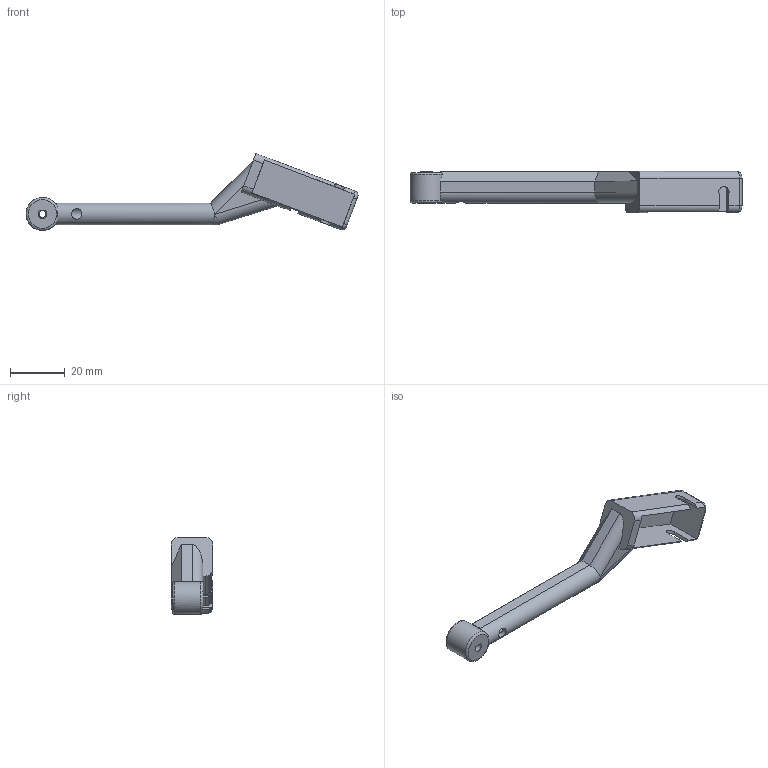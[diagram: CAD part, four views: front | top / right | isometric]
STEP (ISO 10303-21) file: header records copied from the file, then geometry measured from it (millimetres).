
FILE_DESCRIPTION(('Open CASCADE Model'),'2;1');
FILE_NAME('Open CASCADE Shape Model','2026-11-07T08:48:30',('Author'),( 'Open CASCADE'),'Open CASCADE STEP processor 8.0','build123d', 'Unknown');
FILE_SCHEMA(('AUTOMOTIVE_DESIGN { 1 0 10303 214 1 1 1 1 }'));
Length unit declared in the file: millimetre
Products named in the file (1): COMPOUND
Bounding box: 120.98 x 15.01 x 28.01 mm (x, y, z)
Volume: 8501.8 mm3; surface area: 7891.5 mm2
Topology: 1 solids, 1 shells, 72 faces, 197 edges, 128 vertices
Faces by surface type: plane 40, cylinder 23, revolution 6, torus 2, cone 1
Full cylindrical faces by diameter (mm): 2.5 x1, 3.8 x1, 4.4 x1, 4.6 x2
Entity records: 7206 total; most frequent: CARTESIAN_POINT 3525, DIRECTION 614, ORIENTED_EDGE 394, PCURVE 394, DEFINITIONAL_REPRESENTATION 394, LINE 294, VECTOR 294, EDGE_CURVE 197
